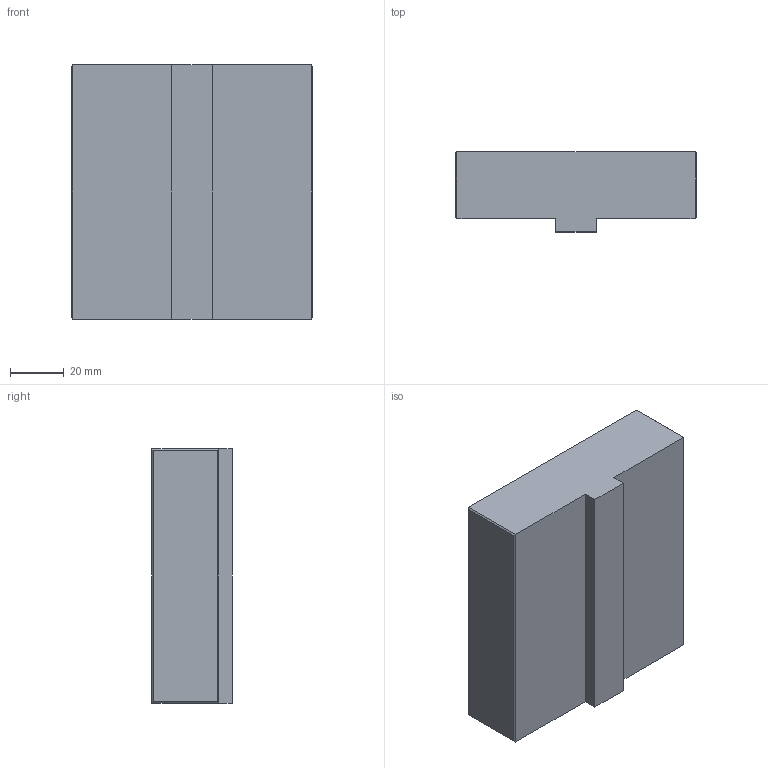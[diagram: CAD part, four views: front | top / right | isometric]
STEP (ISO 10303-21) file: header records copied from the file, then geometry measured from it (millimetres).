
FILE_DESCRIPTION (( 'STEP AP203' ), '1' );
FILE_NAME ('cale.STEP', '2009-12-04T11:18:32', ( 'Famille Couzi' ), ( '' ), 'SwSTEP 2.0', 'SolidWorks 2005143', '' );
FILE_SCHEMA (( 'CONFIG_CONTROL_DESIGN' ));
Length unit declared in the file: millimetre
Products named in the file (1): cale
Bounding box: 90 x 30 x 95 mm (x, y, z)
Volume: 220815.3 mm3; surface area: 27308.6 mm2
Topology: 1 solids, 1 shells, 18 faces, 40 edges, 24 vertices
Faces by surface type: plane 18
Entity records: 557 total; most frequent: CARTESIAN_POINT 83, ORIENTED_EDGE 80, DIRECTION 78, EDGE_CURVE 40, LINE 40, VECTOR 40, VERTEX_POINT 24, AXIS2_PLACEMENT_3D 19
